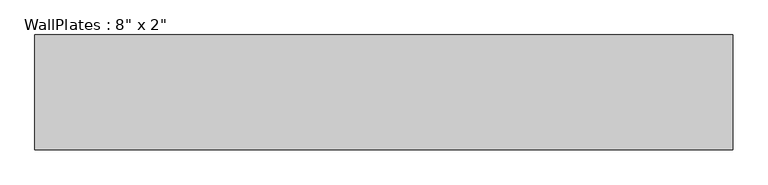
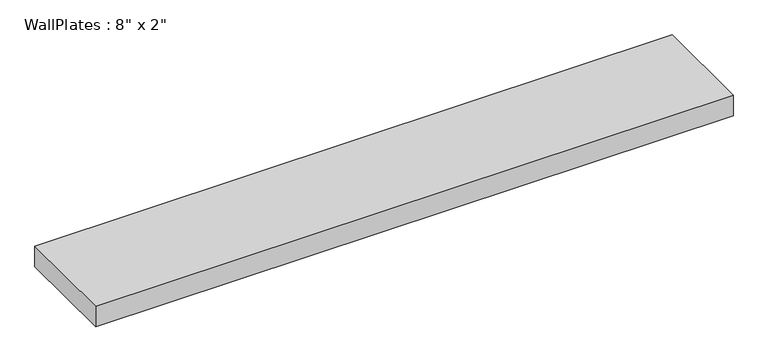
"""IFC4 building model written with IfcOpenShell, lengths in millimetres: beam geometry."""

from ifc_helpers import new_model, si_unit, frame, origin, place, context, project, spatial, polyline, outline, extrude, source, transform, mapped, element, save


def beam_e5826ba7(model_context):
    return source(origin(), model_context, "Body", "SweptSolid", [
        extrude(outline(polyline([(-558.8, -92.075), (-558.8, 92.075), (558.8, 92.075), (558.8, -92.075), (-558.8, -92.075)])), frame((0.0, 0.0, -19.05), z_axis=(0.0, 0.0, 1.0), x_axis=(1.0, 0.0, 0.0)), (0.0, 0.0, 1.0), 38.1),
    ])


if __name__ == "__main__":
    model = new_model("IFC4")
    model_context = context("Model", 3, world=origin())
    ifc_project = project(units=[si_unit("LENGTHUNIT", "METRE", prefix="MILLI")], contexts=[model_context])
    site = spatial("IfcSite", under=ifc_project)
    building = spatial("IfcBuilding", under=site)
    placement = place(None, origin())
    beam_shape = beam_e5826ba7(model_context)
    element("IfcBeam", 1, ObjectType="WallPlates : 8\" x 2\"", at=placement, inside=building, context=model_context, shape_type="MappedRepresentation", body=[
        mapped(beam_shape, transform((0.0, 0.0, 0.0), x_axis=(1.0, 0.0, 0.0), y_axis=(0.0, 1.0, 0.0), z_axis=(0.0, 0.0, 1.0))),
    ])
    save(model, "model.ifc")
